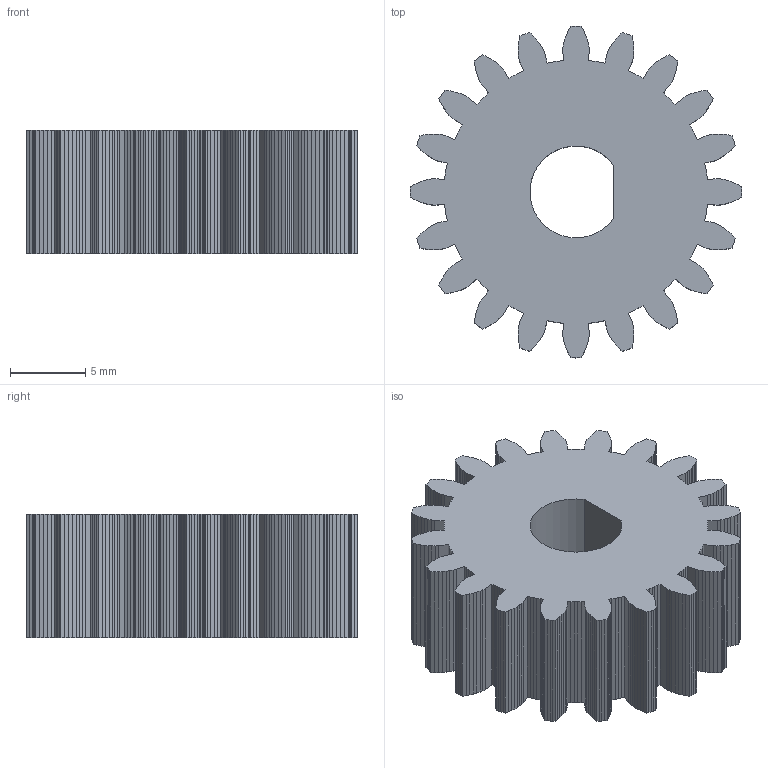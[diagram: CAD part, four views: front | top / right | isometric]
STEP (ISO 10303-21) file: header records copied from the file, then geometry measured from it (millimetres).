
FILE_DESCRIPTION(('Open CASCADE Model'),'2;1');
FILE_NAME('Open CASCADE Shape Model','2026-10-17T21:05:49',('Author'),( 'Open CASCADE'),'Open CASCADE STEP processor 7.9','Open CASCADE 7.9' ,'Unknown');
FILE_SCHEMA(('AUTOMOTIVE_DESIGN { 1 0 10303 214 1 1 1 1 }'));
Length unit declared in the file: millimetre
Products named in the file (1): Open CASCADE STEP translator 7.9 13
Bounding box: 22 x 22 x 8.2 mm (x, y, z)
Volume: 2283.6 mm3; surface area: 1791.5 mm2
Topology: 1 solids, 1 shells, 504 faces, 1506 edges, 1004 vertices
Faces by surface type: plane 503, cylinder 1
Entity records: 36190 total; most frequent: CARTESIAN_POINT 6039, DIRECTION 5528, LINE 4514, VECTOR 4514, ORIENTED_EDGE 3012, PCURVE 3012, DEFINITIONAL_REPRESENTATION 3012, EDGE_CURVE 1506
